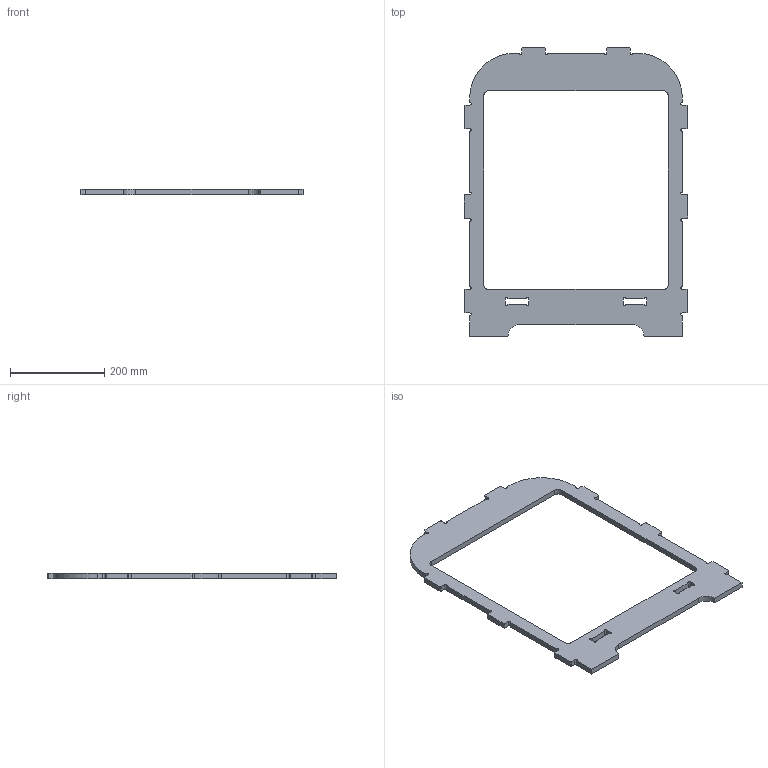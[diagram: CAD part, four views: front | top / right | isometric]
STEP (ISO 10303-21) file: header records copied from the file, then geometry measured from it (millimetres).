
FILE_DESCRIPTION(/* description */ (''),/* implementation_level */ '2;1');
FILE_NAME(/* name */ 'E:\curvepanel1.stp',/* time_stamp */ '2015-03-20T00:37:44+08:00',/* author */ ('s41632'),/* organization */ (''),/* preprocessor_version */ 'ST-DEVELOPER v15.2',/* originating_system */ 'Autodesk Inventor 2014',/* authorisation */ '');
FILE_SCHEMA (('AUTOMOTIVE_DESIGN { 1 0 10303 214 3 1 1 }'));
Length unit declared in the file: millimetre
Products named in the file (1): curvepanel1
Bounding box: 474 x 612 x 12 mm (x, y, z)
Volume: 1184503.8 mm3; surface area: 247278.7 mm2
Topology: 1 solids, 1 shells, 98 faces, 288 edges, 192 vertices
Faces by surface type: plane 60, cylinder 38
Entity records: 3304 total; most frequent: CARTESIAN_POINT 579, ORIENTED_EDGE 576, DIRECTION 562, EDGE_CURVE 288, LINE 212, VECTOR 212, VERTEX_POINT 192, AXIS2_PLACEMENT_3D 175
